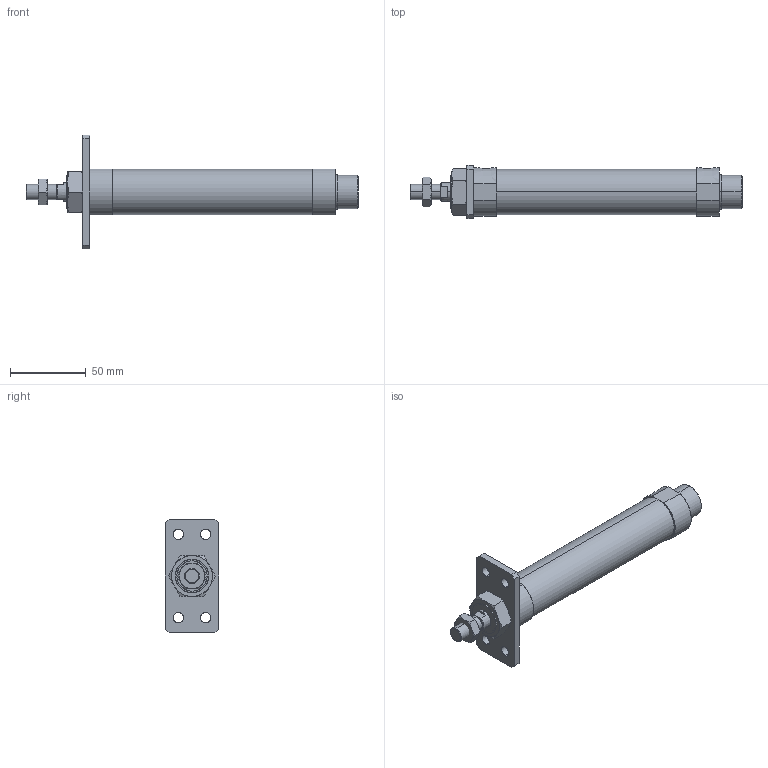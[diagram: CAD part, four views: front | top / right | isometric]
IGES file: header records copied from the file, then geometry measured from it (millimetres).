
Start section: SolidWorks IGES file using analytic representation for surfaces
Global section: file name: C:\Users\Toshiba\Desktop\J#2-25-100-A.IGS; native system: SolidWorks 2014; preprocessor: SolidWorks 2014; author: Toshiba; date: 160308.151432; units: millimetre
Bounding box: 219 x 35 x 75 mm (x, y, z)
Surface area: 30143.9 mm2 (no closed solid volume)
Topology: 0 solids, 0 shells, 117 faces, 2152 edges, 2148 vertices
Faces by surface type: bspline 71, revolution 46
